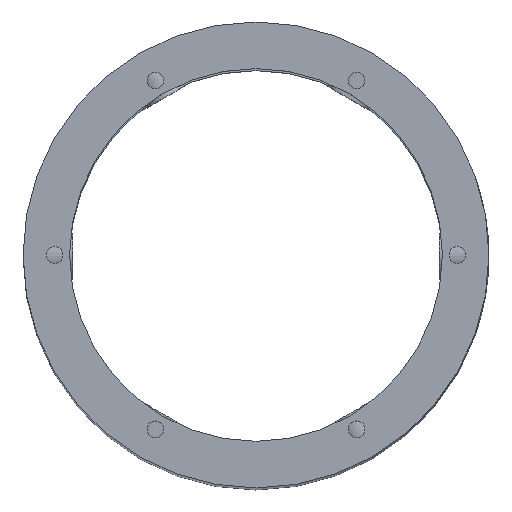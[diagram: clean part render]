
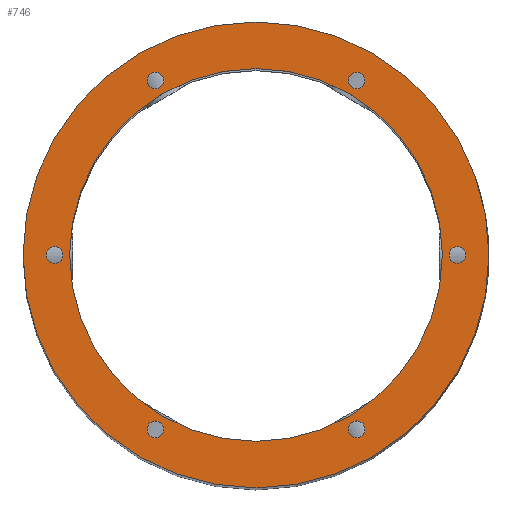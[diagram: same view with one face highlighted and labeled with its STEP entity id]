
A CAD part, top view. The second image highlights one B-rep face of the part: STEP entity #746.
In plain terms, the highlighted planar face has unit normal (0, 0, 1).
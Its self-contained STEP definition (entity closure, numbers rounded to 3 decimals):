
#31 = CYLINDRICAL_SURFACE('',#32,35.);
#32 = AXIS2_PLACEMENT_3D('',#33,#34,#35);
#33 = CARTESIAN_POINT('',(0.,0.,0.));
#34 = DIRECTION('',(-0.,-0.,-1.));
#35 = DIRECTION('',(1.,0.,0.));
#167 = VERTEX_POINT('',#168);
#168 = CARTESIAN_POINT('',(35.,0.,182.));
#189 = EDGE_CURVE('',#167,#167,#190,.T.);
#190 = SURFACE_CURVE('',#191,(#196,#203),.PCURVE_S1.);
#191 = CIRCLE('',#192,35.);
#192 = AXIS2_PLACEMENT_3D('',#193,#194,#195);
#193 = CARTESIAN_POINT('',(0.,0.,182.));
#194 = DIRECTION('',(0.,0.,1.));
#195 = DIRECTION('',(1.,0.,0.));
#196 = PCURVE('',#31,#197);
#197 = DEFINITIONAL_REPRESENTATION('',(#198),#202);
#198 = LINE('',#199,#200);
#199 = CARTESIAN_POINT('',(-0.,-182.));
#200 = VECTOR('',#201,1.);
#201 = DIRECTION('',(-1.,0.));
#202 = ( GEOMETRIC_REPRESENTATION_CONTEXT(2) 
PARAMETRIC_REPRESENTATION_CONTEXT() REPRESENTATION_CONTEXT('2D SPACE',''
  ) );
#203 = PCURVE('',#204,#209);
#204 = PLANE('',#205);
#205 = AXIS2_PLACEMENT_3D('',#206,#207,#208);
#206 = CARTESIAN_POINT('',(0.,0.,182.));
#207 = DIRECTION('',(0.,0.,1.));
#208 = DIRECTION('',(1.,0.,-0.));
#209 = DEFINITIONAL_REPRESENTATION('',(#210),#214);
#210 = CIRCLE('',#211,35.);
#211 = AXIS2_PLACEMENT_2D('',#212,#213);
#212 = CARTESIAN_POINT('',(0.,0.));
#213 = DIRECTION('',(1.,0.));
#214 = ( GEOMETRIC_REPRESENTATION_CONTEXT(2) 
PARAMETRIC_REPRESENTATION_CONTEXT() REPRESENTATION_CONTEXT('2D SPACE',''
  ) );
#746 = ADVANCED_FACE('',(#747,#750,#781,#812,#843,#874,#905,#936),#204,
  .T.);
#747 = FACE_BOUND('',#748,.T.);
#748 = EDGE_LOOP('',(#749));
#749 = ORIENTED_EDGE('',*,*,#189,.T.);
#750 = FACE_BOUND('',#751,.T.);
#751 = EDGE_LOOP('',(#752));
#752 = ORIENTED_EDGE('',*,*,#753,.F.);
#753 = EDGE_CURVE('',#754,#754,#756,.T.);
#754 = VERTEX_POINT('',#755);
#755 = CARTESIAN_POINT('',(-13.875,-26.197,182.));
#756 = SURFACE_CURVE('',#757,(#762,#769),.PCURVE_S1.);
#757 = CIRCLE('',#758,1.25);
#758 = AXIS2_PLACEMENT_3D('',#759,#760,#761);
#759 = CARTESIAN_POINT('',(-15.125,-26.197,182.));
#760 = DIRECTION('',(0.,0.,1.));
#761 = DIRECTION('',(1.,0.,0.));
#762 = PCURVE('',#204,#763);
#763 = DEFINITIONAL_REPRESENTATION('',(#764),#768);
#764 = CIRCLE('',#765,1.25);
#765 = AXIS2_PLACEMENT_2D('',#766,#767);
#766 = CARTESIAN_POINT('',(-15.125,-26.197));
#767 = DIRECTION('',(1.,0.));
#768 = ( GEOMETRIC_REPRESENTATION_CONTEXT(2) 
PARAMETRIC_REPRESENTATION_CONTEXT() REPRESENTATION_CONTEXT('2D SPACE',''
  ) );
#769 = PCURVE('',#770,#775);
#770 = CYLINDRICAL_SURFACE('',#771,1.25);
#771 = AXIS2_PLACEMENT_3D('',#772,#773,#774);
#772 = CARTESIAN_POINT('',(-15.125,-26.197,182.));
#773 = DIRECTION('',(0.,0.,1.));
#774 = DIRECTION('',(1.,0.,0.));
#775 = DEFINITIONAL_REPRESENTATION('',(#776),#780);
#776 = LINE('',#777,#778);
#777 = CARTESIAN_POINT('',(0.,0.));
#778 = VECTOR('',#779,1.);
#779 = DIRECTION('',(1.,0.));
#780 = ( GEOMETRIC_REPRESENTATION_CONTEXT(2) 
PARAMETRIC_REPRESENTATION_CONTEXT() REPRESENTATION_CONTEXT('2D SPACE',''
  ) );
#781 = FACE_BOUND('',#782,.T.);
#782 = EDGE_LOOP('',(#783));
#783 = ORIENTED_EDGE('',*,*,#784,.F.);
#784 = EDGE_CURVE('',#785,#785,#787,.T.);
#785 = VERTEX_POINT('',#786);
#786 = CARTESIAN_POINT('',(16.375,-26.197,182.));
#787 = SURFACE_CURVE('',#788,(#793,#800),.PCURVE_S1.);
#788 = CIRCLE('',#789,1.25);
#789 = AXIS2_PLACEMENT_3D('',#790,#791,#792);
#790 = CARTESIAN_POINT('',(15.125,-26.197,182.));
#791 = DIRECTION('',(0.,0.,1.));
#792 = DIRECTION('',(1.,0.,0.));
#793 = PCURVE('',#204,#794);
#794 = DEFINITIONAL_REPRESENTATION('',(#795),#799);
#795 = CIRCLE('',#796,1.25);
#796 = AXIS2_PLACEMENT_2D('',#797,#798);
#797 = CARTESIAN_POINT('',(15.125,-26.197));
#798 = DIRECTION('',(1.,0.));
#799 = ( GEOMETRIC_REPRESENTATION_CONTEXT(2) 
PARAMETRIC_REPRESENTATION_CONTEXT() REPRESENTATION_CONTEXT('2D SPACE',''
  ) );
#800 = PCURVE('',#801,#806);
#801 = CYLINDRICAL_SURFACE('',#802,1.25);
#802 = AXIS2_PLACEMENT_3D('',#803,#804,#805);
#803 = CARTESIAN_POINT('',(15.125,-26.197,182.));
#804 = DIRECTION('',(0.,0.,1.));
#805 = DIRECTION('',(1.,0.,0.));
#806 = DEFINITIONAL_REPRESENTATION('',(#807),#811);
#807 = LINE('',#808,#809);
#808 = CARTESIAN_POINT('',(0.,0.));
#809 = VECTOR('',#810,1.);
#810 = DIRECTION('',(1.,0.));
#811 = ( GEOMETRIC_REPRESENTATION_CONTEXT(2) 
PARAMETRIC_REPRESENTATION_CONTEXT() REPRESENTATION_CONTEXT('2D SPACE',''
  ) );
#812 = FACE_BOUND('',#813,.T.);
#813 = EDGE_LOOP('',(#814));
#814 = ORIENTED_EDGE('',*,*,#815,.F.);
#815 = EDGE_CURVE('',#816,#816,#818,.T.);
#816 = VERTEX_POINT('',#817);
#817 = CARTESIAN_POINT('',(31.5,0.,182.));
#818 = SURFACE_CURVE('',#819,(#824,#831),.PCURVE_S1.);
#819 = CIRCLE('',#820,1.25);
#820 = AXIS2_PLACEMENT_3D('',#821,#822,#823);
#821 = CARTESIAN_POINT('',(30.25,0.,182.));
#822 = DIRECTION('',(0.,0.,1.));
#823 = DIRECTION('',(1.,0.,0.));
#824 = PCURVE('',#204,#825);
#825 = DEFINITIONAL_REPRESENTATION('',(#826),#830);
#826 = CIRCLE('',#827,1.25);
#827 = AXIS2_PLACEMENT_2D('',#828,#829);
#828 = CARTESIAN_POINT('',(30.25,0.));
#829 = DIRECTION('',(1.,0.));
#830 = ( GEOMETRIC_REPRESENTATION_CONTEXT(2) 
PARAMETRIC_REPRESENTATION_CONTEXT() REPRESENTATION_CONTEXT('2D SPACE',''
  ) );
#831 = PCURVE('',#832,#837);
#832 = CYLINDRICAL_SURFACE('',#833,1.25);
#833 = AXIS2_PLACEMENT_3D('',#834,#835,#836);
#834 = CARTESIAN_POINT('',(30.25,0.,182.));
#835 = DIRECTION('',(0.,0.,1.));
#836 = DIRECTION('',(1.,0.,0.));
#837 = DEFINITIONAL_REPRESENTATION('',(#838),#842);
#838 = LINE('',#839,#840);
#839 = CARTESIAN_POINT('',(0.,0.));
#840 = VECTOR('',#841,1.);
#841 = DIRECTION('',(1.,0.));
#842 = ( GEOMETRIC_REPRESENTATION_CONTEXT(2) 
PARAMETRIC_REPRESENTATION_CONTEXT() REPRESENTATION_CONTEXT('2D SPACE',''
  ) );
#843 = FACE_BOUND('',#844,.T.);
#844 = EDGE_LOOP('',(#845));
#845 = ORIENTED_EDGE('',*,*,#846,.F.);
#846 = EDGE_CURVE('',#847,#847,#849,.T.);
#847 = VERTEX_POINT('',#848);
#848 = CARTESIAN_POINT('',(-29.,0.,182.));
#849 = SURFACE_CURVE('',#850,(#855,#862),.PCURVE_S1.);
#850 = CIRCLE('',#851,1.25);
#851 = AXIS2_PLACEMENT_3D('',#852,#853,#854);
#852 = CARTESIAN_POINT('',(-30.25,0.,182.));
#853 = DIRECTION('',(0.,0.,1.));
#854 = DIRECTION('',(1.,0.,0.));
#855 = PCURVE('',#204,#856);
#856 = DEFINITIONAL_REPRESENTATION('',(#857),#861);
#857 = CIRCLE('',#858,1.25);
#858 = AXIS2_PLACEMENT_2D('',#859,#860);
#859 = CARTESIAN_POINT('',(-30.25,0.));
#860 = DIRECTION('',(1.,0.));
#861 = ( GEOMETRIC_REPRESENTATION_CONTEXT(2) 
PARAMETRIC_REPRESENTATION_CONTEXT() REPRESENTATION_CONTEXT('2D SPACE',''
  ) );
#862 = PCURVE('',#863,#868);
#863 = CYLINDRICAL_SURFACE('',#864,1.25);
#864 = AXIS2_PLACEMENT_3D('',#865,#866,#867);
#865 = CARTESIAN_POINT('',(-30.25,0.,182.));
#866 = DIRECTION('',(0.,0.,1.));
#867 = DIRECTION('',(1.,0.,0.));
#868 = DEFINITIONAL_REPRESENTATION('',(#869),#873);
#869 = LINE('',#870,#871);
#870 = CARTESIAN_POINT('',(0.,0.));
#871 = VECTOR('',#872,1.);
#872 = DIRECTION('',(1.,0.));
#873 = ( GEOMETRIC_REPRESENTATION_CONTEXT(2) 
PARAMETRIC_REPRESENTATION_CONTEXT() REPRESENTATION_CONTEXT('2D SPACE',''
  ) );
#874 = FACE_BOUND('',#875,.T.);
#875 = EDGE_LOOP('',(#876));
#876 = ORIENTED_EDGE('',*,*,#877,.F.);
#877 = EDGE_CURVE('',#878,#878,#880,.T.);
#878 = VERTEX_POINT('',#879);
#879 = CARTESIAN_POINT('',(-13.875,26.197,182.));
#880 = SURFACE_CURVE('',#881,(#886,#893),.PCURVE_S1.);
#881 = CIRCLE('',#882,1.25);
#882 = AXIS2_PLACEMENT_3D('',#883,#884,#885);
#883 = CARTESIAN_POINT('',(-15.125,26.197,182.));
#884 = DIRECTION('',(0.,0.,1.));
#885 = DIRECTION('',(1.,0.,0.));
#886 = PCURVE('',#204,#887);
#887 = DEFINITIONAL_REPRESENTATION('',(#888),#892);
#888 = CIRCLE('',#889,1.25);
#889 = AXIS2_PLACEMENT_2D('',#890,#891);
#890 = CARTESIAN_POINT('',(-15.125,26.197));
#891 = DIRECTION('',(1.,0.));
#892 = ( GEOMETRIC_REPRESENTATION_CONTEXT(2) 
PARAMETRIC_REPRESENTATION_CONTEXT() REPRESENTATION_CONTEXT('2D SPACE',''
  ) );
#893 = PCURVE('',#894,#899);
#894 = CYLINDRICAL_SURFACE('',#895,1.25);
#895 = AXIS2_PLACEMENT_3D('',#896,#897,#898);
#896 = CARTESIAN_POINT('',(-15.125,26.197,182.));
#897 = DIRECTION('',(0.,0.,1.));
#898 = DIRECTION('',(1.,0.,0.));
#899 = DEFINITIONAL_REPRESENTATION('',(#900),#904);
#900 = LINE('',#901,#902);
#901 = CARTESIAN_POINT('',(0.,0.));
#902 = VECTOR('',#903,1.);
#903 = DIRECTION('',(1.,0.));
#904 = ( GEOMETRIC_REPRESENTATION_CONTEXT(2) 
PARAMETRIC_REPRESENTATION_CONTEXT() REPRESENTATION_CONTEXT('2D SPACE',''
  ) );
#905 = FACE_BOUND('',#906,.T.);
#906 = EDGE_LOOP('',(#907));
#907 = ORIENTED_EDGE('',*,*,#908,.F.);
#908 = EDGE_CURVE('',#909,#909,#911,.T.);
#909 = VERTEX_POINT('',#910);
#910 = CARTESIAN_POINT('',(28.,0.,182.));
#911 = SURFACE_CURVE('',#912,(#917,#924),.PCURVE_S1.);
#912 = CIRCLE('',#913,28.);
#913 = AXIS2_PLACEMENT_3D('',#914,#915,#916);
#914 = CARTESIAN_POINT('',(0.,0.,182.));
#915 = DIRECTION('',(0.,0.,1.));
#916 = DIRECTION('',(1.,0.,0.));
#917 = PCURVE('',#204,#918);
#918 = DEFINITIONAL_REPRESENTATION('',(#919),#923);
#919 = CIRCLE('',#920,28.);
#920 = AXIS2_PLACEMENT_2D('',#921,#922);
#921 = CARTESIAN_POINT('',(0.,0.));
#922 = DIRECTION('',(1.,0.));
#923 = ( GEOMETRIC_REPRESENTATION_CONTEXT(2) 
PARAMETRIC_REPRESENTATION_CONTEXT() REPRESENTATION_CONTEXT('2D SPACE',''
  ) );
#924 = PCURVE('',#925,#930);
#925 = CYLINDRICAL_SURFACE('',#926,28.);
#926 = AXIS2_PLACEMENT_3D('',#927,#928,#929);
#927 = CARTESIAN_POINT('',(0.,0.,178.));
#928 = DIRECTION('',(-0.,-0.,-1.));
#929 = DIRECTION('',(1.,0.,0.));
#930 = DEFINITIONAL_REPRESENTATION('',(#931),#935);
#931 = LINE('',#932,#933);
#932 = CARTESIAN_POINT('',(-0.,-4.));
#933 = VECTOR('',#934,1.);
#934 = DIRECTION('',(-1.,0.));
#935 = ( GEOMETRIC_REPRESENTATION_CONTEXT(2) 
PARAMETRIC_REPRESENTATION_CONTEXT() REPRESENTATION_CONTEXT('2D SPACE',''
  ) );
#936 = FACE_BOUND('',#937,.T.);
#937 = EDGE_LOOP('',(#938));
#938 = ORIENTED_EDGE('',*,*,#939,.F.);
#939 = EDGE_CURVE('',#940,#940,#942,.T.);
#940 = VERTEX_POINT('',#941);
#941 = CARTESIAN_POINT('',(16.375,26.197,182.));
#942 = SURFACE_CURVE('',#943,(#948,#955),.PCURVE_S1.);
#943 = CIRCLE('',#944,1.25);
#944 = AXIS2_PLACEMENT_3D('',#945,#946,#947);
#945 = CARTESIAN_POINT('',(15.125,26.197,182.));
#946 = DIRECTION('',(0.,0.,1.));
#947 = DIRECTION('',(1.,0.,0.));
#948 = PCURVE('',#204,#949);
#949 = DEFINITIONAL_REPRESENTATION('',(#950),#954);
#950 = CIRCLE('',#951,1.25);
#951 = AXIS2_PLACEMENT_2D('',#952,#953);
#952 = CARTESIAN_POINT('',(15.125,26.197));
#953 = DIRECTION('',(1.,0.));
#954 = ( GEOMETRIC_REPRESENTATION_CONTEXT(2) 
PARAMETRIC_REPRESENTATION_CONTEXT() REPRESENTATION_CONTEXT('2D SPACE',''
  ) );
#955 = PCURVE('',#956,#961);
#956 = CYLINDRICAL_SURFACE('',#957,1.25);
#957 = AXIS2_PLACEMENT_3D('',#958,#959,#960);
#958 = CARTESIAN_POINT('',(15.125,26.197,182.));
#959 = DIRECTION('',(0.,0.,1.));
#960 = DIRECTION('',(1.,0.,0.));
#961 = DEFINITIONAL_REPRESENTATION('',(#962),#966);
#962 = LINE('',#963,#964);
#963 = CARTESIAN_POINT('',(0.,0.));
#964 = VECTOR('',#965,1.);
#965 = DIRECTION('',(1.,0.));
#966 = ( GEOMETRIC_REPRESENTATION_CONTEXT(2) 
PARAMETRIC_REPRESENTATION_CONTEXT() REPRESENTATION_CONTEXT('2D SPACE',''
  ) );
